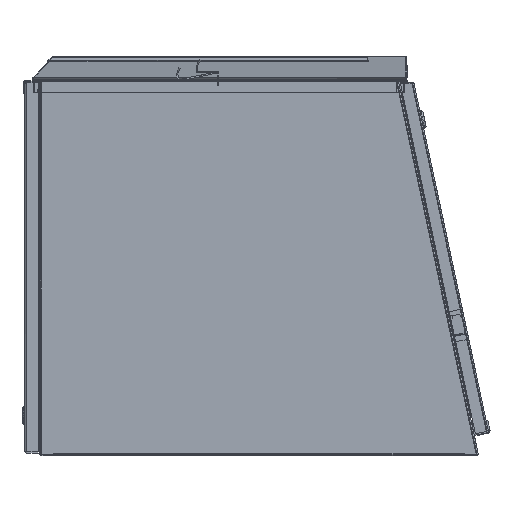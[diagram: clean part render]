
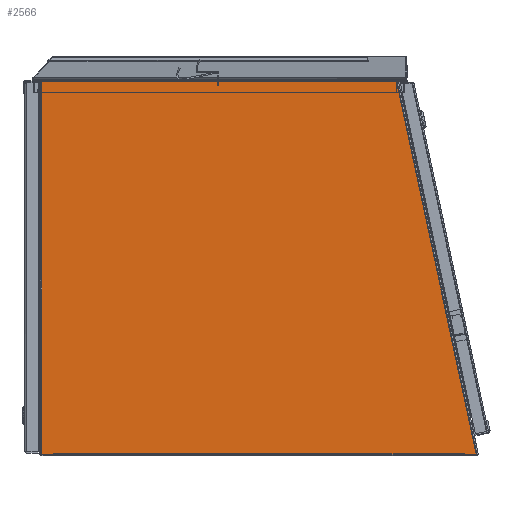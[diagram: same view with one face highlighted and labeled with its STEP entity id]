
A CAD part, left-side view. The second image highlights one B-rep face of the part: STEP entity #2566.
In plain terms, the highlighted planar face has unit normal (-1, 0, 0) as drawn and (0, 0, -1) by its records, which use the part's own axes.
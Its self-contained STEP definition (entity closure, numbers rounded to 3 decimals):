
#2566 = ADVANCED_FACE( '', ( #3675 ), #3676, .T. );
#3675 = FACE_OUTER_BOUND( '', #5856, .T. );
#3676 = PLANE( '', #5857 );
#5856 = EDGE_LOOP( '', ( #10221, #10222, #10223, #10224, #10225, #10226, #10227, #10228, #10229, #10230 ) );
#5857 = AXIS2_PLACEMENT_3D( '', #10231, #10232, #10233 );
#10221 = ORIENTED_EDGE( '', *, *, #15923, .T. );
#10222 = ORIENTED_EDGE( '', *, *, #15820, .F. );
#10223 = ORIENTED_EDGE( '', *, *, #15808, .T. );
#10224 = ORIENTED_EDGE( '', *, *, #15924, .T. );
#10225 = ORIENTED_EDGE( '', *, *, #15922, .F. );
#10226 = ORIENTED_EDGE( '', *, *, #15925, .F. );
#10227 = ORIENTED_EDGE( '', *, *, #15926, .F. );
#10228 = ORIENTED_EDGE( '', *, *, #15898, .F. );
#10229 = ORIENTED_EDGE( '', *, *, #15810, .F. );
#10230 = ORIENTED_EDGE( '', *, *, #15927, .F. );
#10231 = CARTESIAN_POINT( '', ( -296.069, -252.171, 0. ) );
#10232 = DIRECTION( '', ( 0., 0., -1. ) );
#10233 = DIRECTION( '', ( 1., 0., 0. ) );
#15808 = EDGE_CURVE( '', #18037, #18041, #18043, .T. );
#15810 = EDGE_CURVE( '', #18045, #18047, #18048, .T. );
#15820 = EDGE_CURVE( '', #18037, #18060, #18066, .T. );
#15898 = EDGE_CURVE( '', #18047, #18193, #18196, .T. );
#15922 = EDGE_CURVE( '', #18228, #18224, #18230, .T. );
#15923 = EDGE_CURVE( '', #18231, #18060, #18232, .T. );
#15924 = EDGE_CURVE( '', #18041, #18224, #18233, .T. );
#15925 = EDGE_CURVE( '', #18234, #18228, #18235, .T. );
#15926 = EDGE_CURVE( '', #18193, #18234, #18236, .T. );
#15927 = EDGE_CURVE( '', #18231, #18045, #18237, .T. );
#18037 = VERTEX_POINT( '', #21725 );
#18041 = VERTEX_POINT( '', #21731 );
#18043 = LINE( '', #21734, #21735 );
#18045 = VERTEX_POINT( '', #21737 );
#18047 = VERTEX_POINT( '', #21740 );
#18048 = LINE( '', #21741, #21742 );
#18060 = VERTEX_POINT( '', #21758 );
#18066 = LINE( '', #21765, #21766 );
#18193 = VERTEX_POINT( '', #22013 );
#18196 = LINE( '', #22026, #22027 );
#18224 = VERTEX_POINT( '', #22079 );
#18228 = VERTEX_POINT( '', #22085 );
#18230 = LINE( '', #22088, #22089 );
#18231 = VERTEX_POINT( '', #22090 );
#18232 = LINE( '', #22091, #22092 );
#18233 = LINE( '', #22093, #22094 );
#18234 = VERTEX_POINT( '', #22095 );
#18235 = LINE( '', #22096, #22097 );
#18236 = LINE( '', #22098, #22099 );
#18237 = LINE( '', #22100, #22101 );
#21725 = CARTESIAN_POINT( '', ( -276.829, -251.257, 0. ) );
#21731 = CARTESIAN_POINT( '', ( -277.591, -251.257, 0. ) );
#21734 = CARTESIAN_POINT( '', ( -277.591, -251.257, 0. ) );
#21735 = VECTOR( '', #27151, 1000. );
#21737 = CARTESIAN_POINT( '', ( 277.653, -252.171, 0. ) );
#21740 = CARTESIAN_POINT( '', ( 293.326, -252.171, 0. ) );
#21741 = CARTESIAN_POINT( '', ( -296.069, -252.171, 0. ) );
#21742 = VECTOR( '', #27153, 1000. );
#21758 = CARTESIAN_POINT( '', ( 276.891, -251.257, 0. ) );
#21765 = CARTESIAN_POINT( '', ( -276.829, -251.257, 0. ) );
#21766 = VECTOR( '', #27171, 1000. );
#22013 = CARTESIAN_POINT( '', ( 293.326, 252.171, 0. ) );
#22026 = CARTESIAN_POINT( '', ( 293.326, -252.171, 0. ) );
#22027 = VECTOR( '', #27242, 1000. );
#22079 = CARTESIAN_POINT( '', ( -277.591, -252.171, 0. ) );
#22085 = CARTESIAN_POINT( '', ( -293.263, -252.171, 0. ) );
#22088 = CARTESIAN_POINT( '', ( -296.069, -252.171, 0. ) );
#22089 = VECTOR( '', #27265, 1000. );
#22090 = CARTESIAN_POINT( '', ( 277.653, -251.257, 0. ) );
#22091 = CARTESIAN_POINT( '', ( -277.591, -251.257, 0. ) );
#22092 = VECTOR( '', #27266, 1000. );
#22093 = CARTESIAN_POINT( '', ( -277.591, -252.171, 0. ) );
#22094 = VECTOR( '', #27267, 1000. );
#22095 = CARTESIAN_POINT( '', ( -185.313, 252.171, 0. ) );
#22096 = CARTESIAN_POINT( '', ( -185.313, 252.171, 0. ) );
#22097 = VECTOR( '', #27268, 1000. );
#22098 = CARTESIAN_POINT( '', ( 296.069, 252.171, 0. ) );
#22099 = VECTOR( '', #27269, 1000. );
#22100 = CARTESIAN_POINT( '', ( 277.653, -252.171, 0. ) );
#22101 = VECTOR( '', #27270, 1000. );
#27151 = DIRECTION( '', ( -1., 0., 0. ) );
#27153 = DIRECTION( '', ( 1., 0., 0. ) );
#27171 = DIRECTION( '', ( 1., 0., 0. ) );
#27242 = DIRECTION( '', ( 0., 1., 0. ) );
#27265 = DIRECTION( '', ( 1., 0., 0. ) );
#27266 = DIRECTION( '', ( -1., 0., 0. ) );
#27267 = DIRECTION( '', ( 0., -1., 0. ) );
#27268 = DIRECTION( '', ( -0.209, -0.978, 0. ) );
#27269 = DIRECTION( '', ( -1., 0., 0. ) );
#27270 = DIRECTION( '', ( 0., -1., 0. ) );
